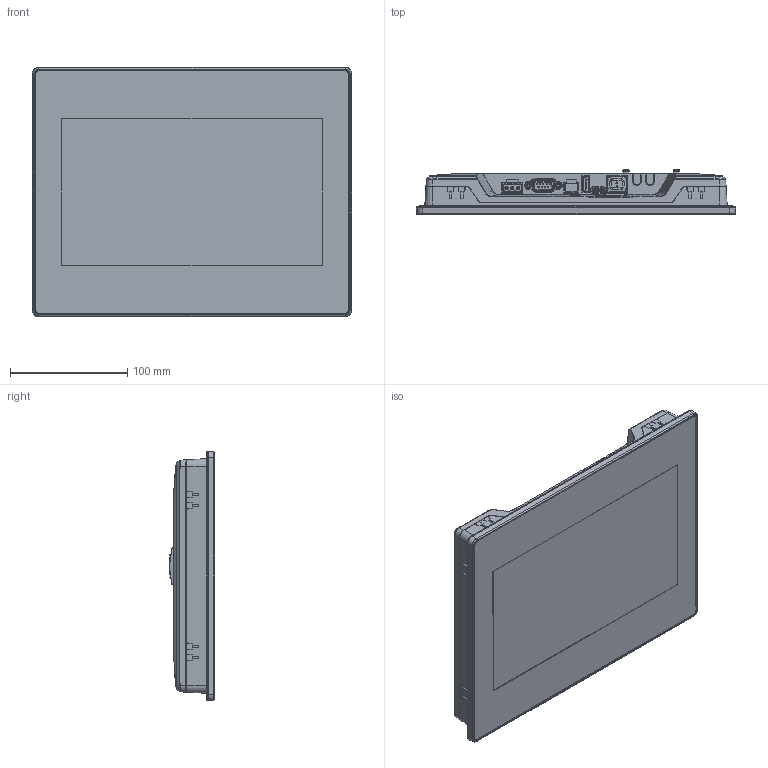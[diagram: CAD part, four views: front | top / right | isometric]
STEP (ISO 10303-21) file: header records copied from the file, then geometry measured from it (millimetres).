
FILE_DESCRIPTION((''),'2;1');
FILE_NAME('FE6400CW','2024-07-04T09:55:50',('weixf_pc'),(''),'CREO PARAMETRIC BY PTC INC, 2016510','CREO PARAMETRIC BY PTC INC, 2016510','');
FILE_SCHEMA(('CONFIG_CONTROL_DESIGN'));
Products named in the file (1): FE6400CW
Bounding box: 272.94 x 38.72 x 212.94 mm (x, y, z)
Volume: 1392749.7 mm3; surface area: 268553.4 mm2
Topology: 1 solids, 30 shells, 3538 faces, 9571 edges, 6106 vertices
Faces by surface type: plane 1731, cylinder 880, bspline 563, torus 182, cone 104, sphere 57, revolution 14, extrusion 7
Entity records: 144559 total; most frequent: CARTESIAN_POINT 61993, ORIENTED_EDGE 19026, DIRECTION 14315, EDGE_CURVE 9513, VERTEX_POINT 6105, VECTOR 5297, LINE 5290, AXIS2_PLACEMENT_3D 4502
